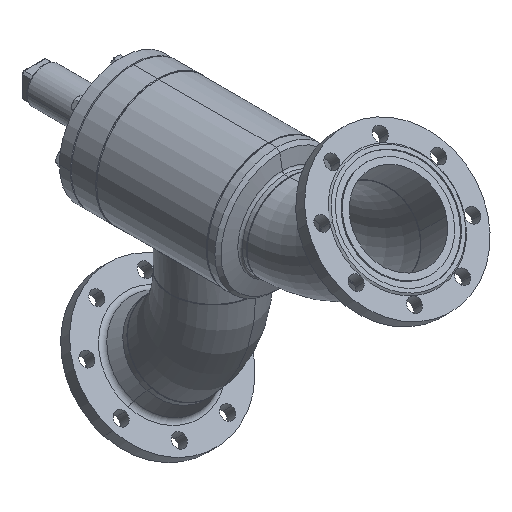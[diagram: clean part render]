
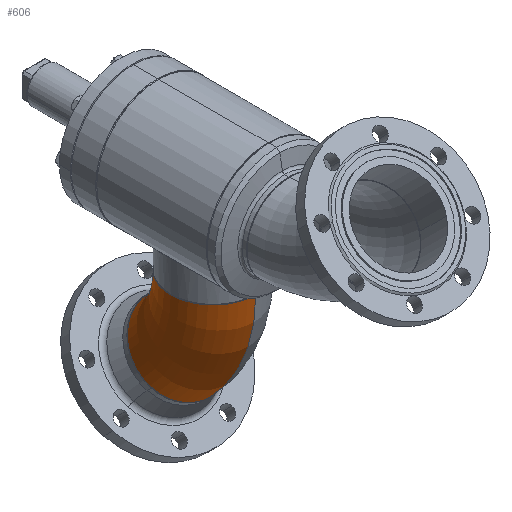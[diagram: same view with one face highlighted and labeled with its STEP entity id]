
A CAD part, isometric view. The second image highlights one B-rep face of the part: STEP entity #606.
In plain terms, the highlighted toroidal (fillet/blend) face has major radius 229 mm and minor radius 84.15 mm.
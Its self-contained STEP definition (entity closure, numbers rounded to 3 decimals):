
#314 = EDGE_CURVE ( 'NONE', #8689, #588, #2828, .T. ) ;
#363 = EDGE_CURVE ( 'NONE', #5362, #588, #3210, .T. ) ;
#407 = ORIENTED_EDGE ( 'NONE', *, *, #363, .F. ) ;
#515 = ORIENTED_EDGE ( 'NONE', *, *, #10432, .F. ) ;
#586 = EDGE_LOOP ( 'NONE', ( #515, #7284, #1695, #407 ) ) ;
#588 = VERTEX_POINT ( 'NONE', #4960 ) ;
#606 = ADVANCED_FACE ( 'NONE', ( #5020 ), #5021, .T. ) ;
#1214 = CARTESIAN_POINT ( 'NONE',  ( 102.424, -126.576, 0. ) ) ;
#1695 = ORIENTED_EDGE ( 'NONE', *, *, #314, .T. ) ;
#2828 = CIRCLE ( 'NONE', #2829, 84.15 ) ;
#2829 = AXIS2_PLACEMENT_3D ( 'NONE', #2830, #2831, #2832 ) ;
#2830 = CARTESIAN_POINT ( 'NONE',  ( 0., 0., 0. ) ) ;
#2831 = DIRECTION ( 'NONE',  ( 1., 0., 0. ) ) ;
#2832 = DIRECTION ( 'NONE',  ( 0., 0., -1. ) ) ;
#3210 = CIRCLE ( 'NONE', #3211, 144.85 ) ;
#3211 = AXIS2_PLACEMENT_3D ( 'NONE', #3212, #3213, #3214 ) ;
#3212 = CARTESIAN_POINT ( 'NONE',  ( 0., -229., 0. ) ) ;
#3213 = DIRECTION ( 'NONE',  ( 0., 0., 1. ) ) ;
#3214 = DIRECTION ( 'NONE',  ( 1., 0., 0. ) ) ;
#3215 = CARTESIAN_POINT ( 'NONE',  ( 221.43, -7.57, 0. ) ) ;
#3302 = CIRCLE ( 'NONE', #3303, 313.15 ) ;
#3303 = AXIS2_PLACEMENT_3D ( 'NONE', #3304, #3305, #3306 ) ;
#3304 = CARTESIAN_POINT ( 'NONE',  ( 0., -229., 0. ) ) ;
#3305 = DIRECTION ( 'NONE',  ( 0., 0., 1. ) ) ;
#3306 = DIRECTION ( 'NONE',  ( 1., 0., 0. ) ) ;
#4443 = CARTESIAN_POINT ( 'NONE',  ( 0., 84.15, 0. ) ) ;
#4960 = CARTESIAN_POINT ( 'NONE',  ( 0., -84.15, 0. ) ) ;
#5020 = FACE_OUTER_BOUND ( 'NONE', #586, .T. ) ;
#5021 = TOROIDAL_SURFACE ( 'NONE', #5022, 229., 84.15 ) ;
#5022 = AXIS2_PLACEMENT_3D ( 'NONE', #5023, #5024, #5025 ) ;
#5023 = CARTESIAN_POINT ( 'NONE',  ( 0., -229., 0. ) ) ;
#5024 = DIRECTION ( 'NONE',  ( 0., 0., 1. ) ) ;
#5025 = DIRECTION ( 'NONE',  ( 1., 0., 0. ) ) ;
#5362 = VERTEX_POINT ( 'NONE', #1214 ) ;
#6399 = CIRCLE ( 'NONE', #6400, 84.15 ) ;
#6400 = AXIS2_PLACEMENT_3D ( 'NONE', #6401, #6402, #6403 ) ;
#6401 = CARTESIAN_POINT ( 'NONE',  ( 161.927, -67.073, 0. ) ) ;
#6402 = DIRECTION ( 'NONE',  ( 0.707, -0.707, 0. ) ) ;
#6403 = DIRECTION ( 'NONE',  ( 0., 0., -1. ) ) ;
#7284 = ORIENTED_EDGE ( 'NONE', *, *, #7569, .T. ) ;
#7399 = VERTEX_POINT ( 'NONE', #3215 ) ;
#7569 = EDGE_CURVE ( 'NONE', #7399, #8689, #3302, .T. ) ;
#8689 = VERTEX_POINT ( 'NONE', #4443 ) ;
#10432 = EDGE_CURVE ( 'NONE', #7399, #5362, #6399, .T. ) ;
